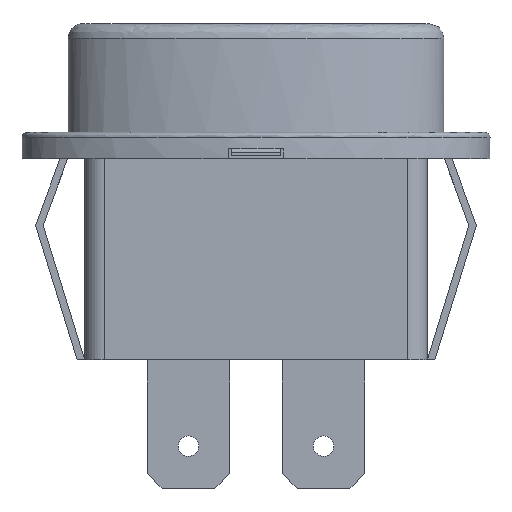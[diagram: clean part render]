
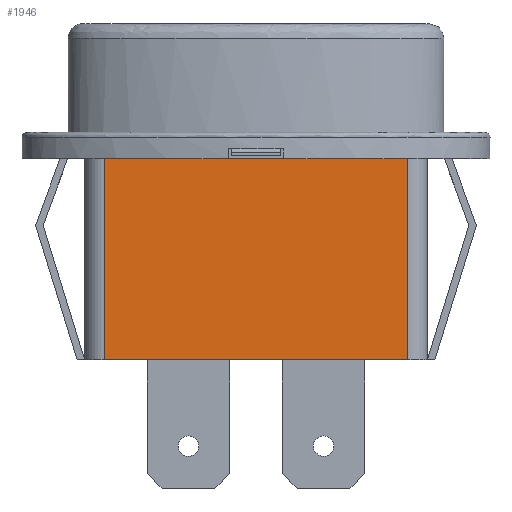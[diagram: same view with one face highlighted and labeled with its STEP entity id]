
A CAD part, top view. The second image highlights one B-rep face of the part: STEP entity #1946.
In plain terms, the highlighted planar face has unit normal (0, 0, 1).
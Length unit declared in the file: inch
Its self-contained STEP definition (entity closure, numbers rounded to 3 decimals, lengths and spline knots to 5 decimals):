
#146=FACE_OUTER_BOUND('',#250,.T.);
#250=EDGE_LOOP('',(#1409,#1410,#1411,#1412));
#402=LINE('',#2804,#637);
#415=LINE('',#2840,#650);
#416=LINE('',#2842,#651);
#417=LINE('',#2843,#652);
#637=VECTOR('',#2288,0.3937);
#650=VECTOR('',#2327,0.3937);
#651=VECTOR('',#2330,0.3937);
#652=VECTOR('',#2331,0.3937);
#852=VERTEX_POINT('',#2801);
#853=VERTEX_POINT('',#2803);
#862=VERTEX_POINT('',#2836);
#863=VERTEX_POINT('',#2838);
#1055=EDGE_CURVE('',#852,#853,#402,.T.);
#1075=EDGE_CURVE('',#863,#862,#415,.T.);
#1076=EDGE_CURVE('',#852,#862,#416,.T.);
#1077=EDGE_CURVE('',#853,#863,#417,.T.);
#1409=ORIENTED_EDGE('',*,*,#1055,.F.);
#1410=ORIENTED_EDGE('',*,*,#1076,.T.);
#1411=ORIENTED_EDGE('',*,*,#1075,.F.);
#1412=ORIENTED_EDGE('',*,*,#1077,.F.);
#1854=PLANE('',#2079);
#1946=ADVANCED_FACE('',(#146),#1854,.T.);
#2079=AXIS2_PLACEMENT_3D('',#2841,#2328,#2329);
#2288=DIRECTION('',(0.,1.,0.));
#2327=DIRECTION('',(0.,-1.,0.));
#2328=DIRECTION('center_axis',(0.,0.,1.));
#2329=DIRECTION('ref_axis',(1.,0.,0.));
#2330=DIRECTION('',(1.,0.,0.));
#2331=DIRECTION('',(1.,0.,0.));
#2801=CARTESIAN_POINT('',(-0.46,0.,0.15));
#2803=CARTESIAN_POINT('',(-0.46,0.61,0.15));
#2804=CARTESIAN_POINT('',(-0.46,0.,0.15));
#2836=CARTESIAN_POINT('',(0.46,0.,0.15));
#2838=CARTESIAN_POINT('',(0.46,0.61,0.15));
#2840=CARTESIAN_POINT('',(0.46,0.,0.15));
#2841=CARTESIAN_POINT('Origin',(-0.52,0.,0.15));
#2842=CARTESIAN_POINT('',(-0.52,0.,0.15));
#2843=CARTESIAN_POINT('',(-0.52,0.61,0.15));
